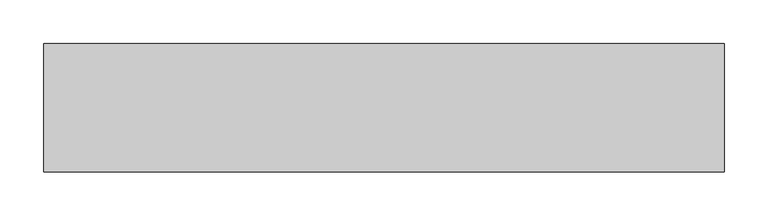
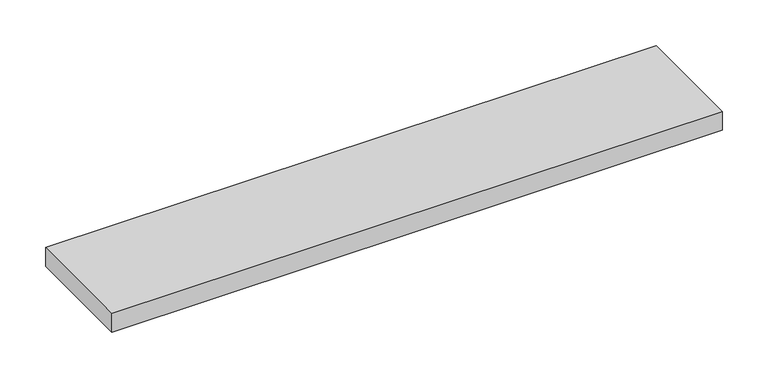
"""IFC4 building model written with IfcOpenShell, lengths in millimetres: proxy geometry, CAMBRIDGE^TABLE 2_4884 Rect-TOP STILE 4."""

from ifc_helpers import new_model, si_unit, frame, origin, place, context, project, spatial, polyline, outline, extrude, source, transform, mapped, element, save


def generic_models_d184988a(model_context):
    return source(origin(), model_context, "Body", "SweptSolid", [
        extrude(outline(polyline([(679.45, 0.0), (1454.15, 0.0), (1454.15, -146.05), (679.45, -146.05), (679.45, 0.0)])), frame((0.0, 0.0, -812.8), z_axis=(0.0, 0.0, 1.0), x_axis=(1.0, 0.0, 0.0)), (0.0, 0.0, 1.0), 25.4),
    ])


if __name__ == "__main__":
    model = new_model("IFC4")
    model_context = context("Model", 3, world=origin())
    ifc_project = project(units=[si_unit("LENGTHUNIT", "METRE", prefix="MILLI")], contexts=[model_context])
    site = spatial("IfcSite", under=ifc_project)
    building = spatial("IfcBuilding", under=site)
    placement = place(None, origin())
    generic_models_shape = generic_models_d184988a(model_context)
    element("IfcBuildingElementProxy", 1, Name="CAMBRIDGE^TABLE 2_4884 Rect-TOP STILE 4", ObjectType="CAMBRIDGE^TABLE 2_4884 Rect-TOP STILE 4", at=placement, inside=building, context=model_context, shape_type="MappedRepresentation", body=[
        mapped(generic_models_shape, transform((0.0, 0.0, 0.0), x_axis=(1.0, 0.0, 0.0), y_axis=(0.0, 1.0, 0.0), z_axis=(0.0, 0.0, 1.0))),
    ])
    save(model, "model.ifc")
